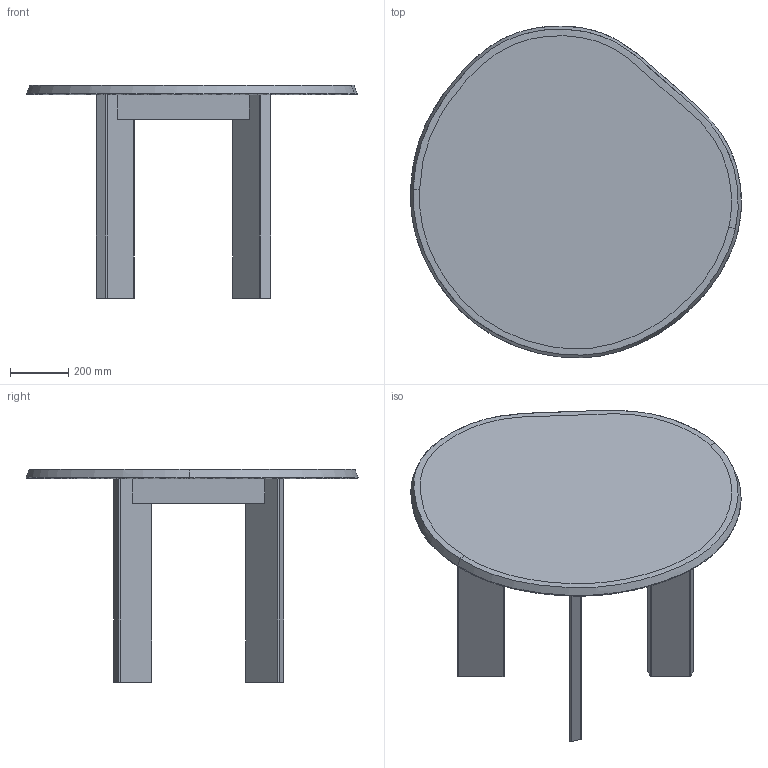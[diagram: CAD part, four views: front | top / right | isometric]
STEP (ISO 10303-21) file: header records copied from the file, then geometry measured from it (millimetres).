
FILE_DESCRIPTION(/* description */ (''),/* implementation_level */ '2;1');
FILE_NAME(/* name */ 'Contour Dining table_115_3D',/* time_stamp */ '2023-07-20T13:28:02+02:00',/* author */ (''),/* organization */ (''),/* preprocessor_version */ 'ST-DEVELOPER v16.5',/* originating_system */ 'Rhino 7.31',/* authorisation */ '');
FILE_SCHEMA (('CONFIG_CONTROL_DESIGN'));
Products named in the file (1): Document
Bounding box: 1133.41 x 1137.97 x 732 mm (x, y, z)
Volume: 50280428.4 mm3; surface area: 3660508.9 mm2
Topology: 57 solids, 65 shells, 2240 faces, 5918 edges, 3872 vertices
Faces by surface type: cylinder 1308, plane 526, bspline 406
Entity records: 115743 total; most frequent: CARTESIAN_POINT 76574, ORIENTED_EDGE 11812, EDGE_CURVE 5918, B_SPLINE_CURVE_WITH_KNOTS 4624, VERTEX_POINT 3872, EDGE_LOOP 2384, ADVANCED_FACE 2240, FACE_OUTER_BOUND 2240
